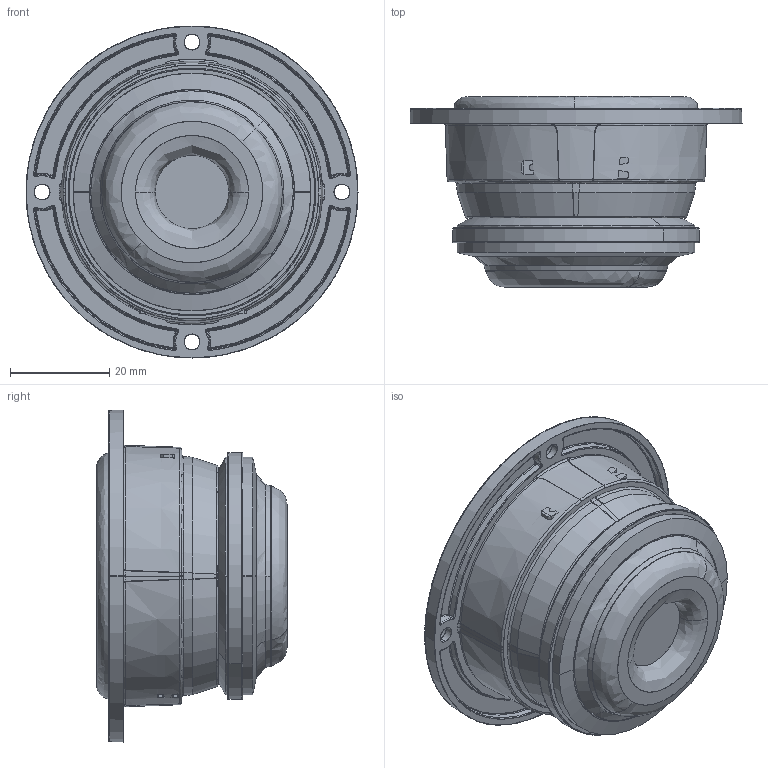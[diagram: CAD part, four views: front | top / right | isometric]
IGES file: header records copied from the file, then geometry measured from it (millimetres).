
Start section: SolidWorks IGES file using analytic representation for surfaces
Global section: file name: W:\TT\WEB 3D enheder\WEB 5F_8422T01\5F_8422T01.IGS; native system: SolidWorks 2019; preprocessor: SolidWorks 2019; author: mhn; date: 200615.123840; units: millimetre
Bounding box: 67 x 38.5 x 67 mm (x, y, z)
Surface area: 14364.4 mm2 (no closed solid volume)
Topology: 0 solids, 0 shells, 423 faces, 4804 edges, 4787 vertices
Faces by surface type: bspline 248, revolution 175
